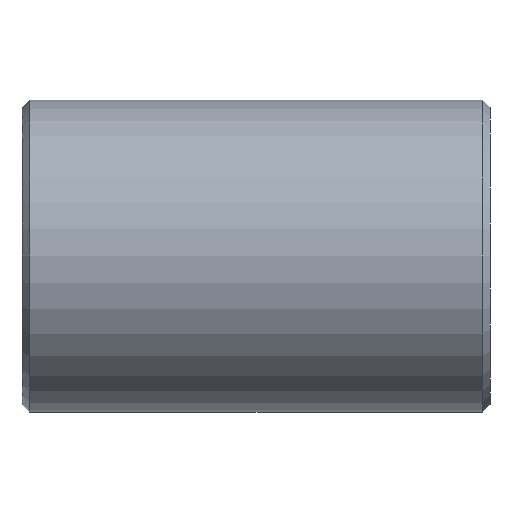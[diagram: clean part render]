
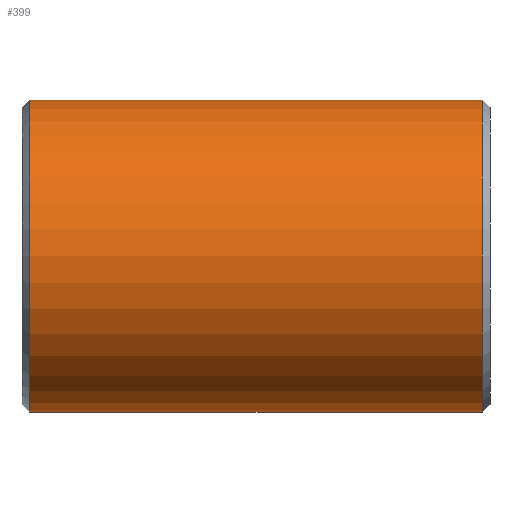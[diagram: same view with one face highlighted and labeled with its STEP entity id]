
A CAD part, left-side view. The second image highlights one B-rep face of the part: STEP entity #399.
In plain terms, the highlighted cylindrical face has radius 10 mm (diameter 20 mm), a partial arc.
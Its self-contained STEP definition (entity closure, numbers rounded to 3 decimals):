
#31 = CARTESIAN_POINT ( 'NONE',  ( 0., 1., 10. ) ) ;
#81 = DIRECTION ( 'NONE',  ( 0., 1., 0. ) ) ;
#95 = VERTEX_POINT ( 'NONE', #1220 ) ;
#119 = CYLINDRICAL_SURFACE ( 'NONE', #976, 10. ) ;
#169 = FACE_OUTER_BOUND ( 'NONE', #401, .T. ) ;
#187 = ORIENTED_EDGE ( 'NONE', *, *, #1223, .T. ) ;
#224 = CARTESIAN_POINT ( 'NONE',  ( 0., -28., 0. ) ) ;
#284 = VERTEX_POINT ( 'NONE', #1123 ) ;
#293 = DIRECTION ( 'NONE',  ( 0., 1., 0. ) ) ;
#305 = DIRECTION ( 'NONE',  ( 0., 1., 0. ) ) ;
#318 = VERTEX_POINT ( 'NONE', #624 ) ;
#393 = ORIENTED_EDGE ( 'NONE', *, *, #542, .T. ) ;
#399 = ADVANCED_FACE ( 'NONE', ( #169 ), #119, .T. ) ;
#401 = EDGE_LOOP ( 'NONE', ( #1085, #187, #1300, #393 ) ) ;
#448 = AXIS2_PLACEMENT_3D ( 'NONE', #224, #637, #1063 ) ;
#469 = EDGE_CURVE ( 'NONE', #95, #318, #630, .T. ) ;
#512 = VECTOR ( 'NONE', #81, 1000. ) ;
#542 = EDGE_CURVE ( 'NONE', #803, #318, #992, .T. ) ;
#624 = CARTESIAN_POINT ( 'NONE',  ( 0., 1., -10. ) ) ;
#630 = LINE ( 'NONE', #833, #1112 ) ;
#637 = DIRECTION ( 'NONE',  ( 0., 1., 0. ) ) ;
#712 = CARTESIAN_POINT ( 'NONE',  ( 0., 65.513, 0. ) ) ;
#740 = CIRCLE ( 'NONE', #448, 10. ) ;
#747 = CARTESIAN_POINT ( 'NONE',  ( 0., 1., 0. ) ) ;
#803 = VERTEX_POINT ( 'NONE', #31 ) ;
#833 = CARTESIAN_POINT ( 'NONE',  ( 0., 65.513, -10. ) ) ;
#866 = AXIS2_PLACEMENT_3D ( 'NONE', #747, #1184, #960 ) ;
#960 = DIRECTION ( 'NONE',  ( 0., 0., 1. ) ) ;
#976 = AXIS2_PLACEMENT_3D ( 'NONE', #712, #293, #1157 ) ;
#992 = CIRCLE ( 'NONE', #866, 10. ) ;
#1063 = DIRECTION ( 'NONE',  ( 0., 0., -1. ) ) ;
#1069 = LINE ( 'NONE', #1342, #512 ) ;
#1085 = ORIENTED_EDGE ( 'NONE', *, *, #469, .F. ) ;
#1112 = VECTOR ( 'NONE', #305, 1000. ) ;
#1123 = CARTESIAN_POINT ( 'NONE',  ( 0., -28., 10. ) ) ;
#1157 = DIRECTION ( 'NONE',  ( 0., 0., 1. ) ) ;
#1184 = DIRECTION ( 'NONE',  ( 0., -1., 0. ) ) ;
#1194 = EDGE_CURVE ( 'NONE', #284, #803, #1069, .T. ) ;
#1220 = CARTESIAN_POINT ( 'NONE',  ( 0., -28., -10. ) ) ;
#1223 = EDGE_CURVE ( 'NONE', #95, #284, #740, .T. ) ;
#1300 = ORIENTED_EDGE ( 'NONE', *, *, #1194, .T. ) ;
#1342 = CARTESIAN_POINT ( 'NONE',  ( 0., 65.513, 10. ) ) ;
